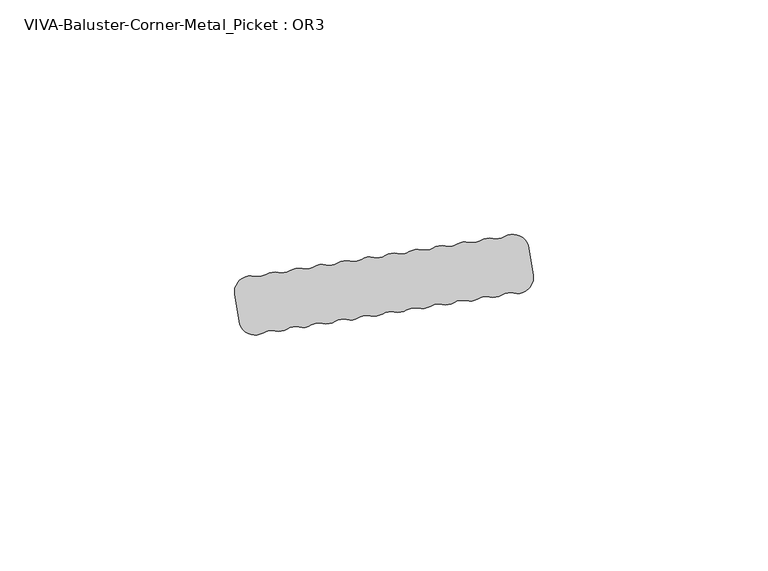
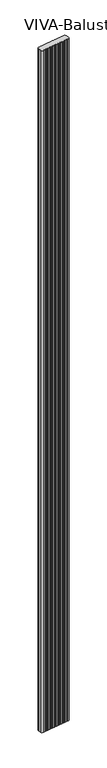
"""IFC4 building model written with IfcOpenShell, lengths in millimetres: railing geometry, VIVA-Baluster-Corner-Metal_Picket : OR3."""

import ifcopenshell
import ifcopenshell.guid

model = None  # the IFC model being written
_history = None  # IfcOwnerHistory: only IFC2X3 demands one
_inside = {}  # id of a spatial element -> (the spatial element, [elements in it])
_under = {}  # id of a project, library or spatial element -> (it, [spatial elements below it])
_declared = {}  # id of a project -> (the project, [libraries it declares])
_typed = {}  # id of a type object -> (the type object, [elements of that type])
_made_of = {}  # id of a material, layer set ... -> (it, [elements and type objects made of it])


def new_model(schema):
    """Start an empty IFC model of exactly this schema.

    Asked for "IFC4X3", IfcOpenShell would pick the latest addendum, in which some entities
    have other attributes; the version numbers below select the first issue.
    IFC2X3 requires an IfcOwnerHistory on every rooted entity: one is made here for all.
    """
    global model, _history
    if schema == "IFC4X3":
        model = ifcopenshell.file(schema_version=(4, 3, 0, 0))
    else:
        model = ifcopenshell.file(schema=schema)
    _inside.clear()
    _under.clear()
    _declared.clear()
    _typed.clear()
    _made_of.clear()
    _history = None
    if model.schema == "IFC2X3":
        org = make("IfcOrganization", Name="unknown")
        user = make(
            "IfcPersonAndOrganization",
            ThePerson=make("IfcPerson", FamilyName="unknown"),
            TheOrganization=org,
        )
        app = make(
            "IfcApplication",
            ApplicationDeveloper=org,
            Version="unknown",
            ApplicationFullName="unknown",
            ApplicationIdentifier="unknown",
        )
        _history = make(
            "IfcOwnerHistory",
            OwningUser=user,
            OwningApplication=app,
            ChangeAction="ADDED",
            CreationDate=0,
        )
    return model


def make(cls, **values):
    """One entity of the class cls with the attributes given. An attribute that is None is left unset."""
    return model.create_entity(
        cls, **{name: value for name, value in values.items() if value is not None}
    )


def rooted(cls, **values):
    """An entity with a GlobalId (a new one), such as an element, a storey or a relation."""
    return make(cls, GlobalId=ifcopenshell.guid.new(), OwnerHistory=_history, **values)


def si_unit(unit_type, name, prefix=None):
    """IfcSIUnit, for example si_unit("LENGTHUNIT", "METRE", prefix="MILLI")."""
    return make("IfcSIUnit", UnitType=unit_type, Prefix=prefix, Name=name)


def assignment(units):
    """IfcUnitAssignment: the units of a project."""
    return None if units is None else make("IfcUnitAssignment", Units=units)


def point(xyz):
    """IfcCartesianPoint."""
    return None if xyz is None else make("IfcCartesianPoint", Coordinates=xyz)


def direction(xyz):
    """IfcDirection."""
    return None if xyz is None else make("IfcDirection", DirectionRatios=xyz)


def frame(location, z_axis=None, x_axis=None):
    """IfcAxis2Placement3D, a coordinate frame: its origin and axes. An axis left out is left unset."""
    return make(
        "IfcAxis2Placement3D",
        Location=point(location),
        Axis=direction(z_axis),
        RefDirection=direction(x_axis),
    )


def origin():
    """The frame at (0, 0, 0) with its axes left unset."""
    return frame((0.0, 0.0, 0.0))


def place(relative_to, where):
    """IfcLocalPlacement: puts the frame where relative to a parent placement (None: the world)."""
    return make(
        "IfcLocalPlacement", PlacementRelTo=relative_to, RelativePlacement=where
    )


def context(
    kind, dimensions, precision=None, world=None, true_north=None, identifier=None
):
    """IfcGeometricRepresentationContext, for example the 3D "Model" context."""
    return make(
        "IfcGeometricRepresentationContext",
        ContextIdentifier=identifier,
        ContextType=kind,
        CoordinateSpaceDimension=dimensions,
        Precision=precision,
        WorldCoordinateSystem=world,
        TrueNorth=true_north,
    )


def project(units=None, contexts=None):
    """IfcProject with its units and contexts."""
    return rooted(
        "IfcProject",
        Name="project",
        RepresentationContexts=contexts,
        UnitsInContext=assignment(units),
    )


def spatial(cls, under=None, at=None, **own):
    """A site, building, storey or space (cls), placed at a placement, below another one or the project."""
    s = rooted(cls, ObjectPlacement=at, **own)
    if under is not None:
        _under.setdefault(under.id(), (under, []))[1].append(s)
    return s


def polyline(points):
    """IfcPolyline through the points."""
    return make("IfcPolyline", Points=[point(p) for p in points])


def circle_curve(where, radius):
    """IfcCircle in the frame where."""
    return make("IfcCircle", Position=where, Radius=radius)


def shape(context_of_items, identifier, shape_type, items):
    """IfcShapeRepresentation: the items that make up one representation, for example the "Body"."""
    return make(
        "IfcShapeRepresentation",
        ContextOfItems=context_of_items,
        RepresentationIdentifier=identifier,
        RepresentationType=shape_type,
        Items=items,
    )


def source(mapping_origin, context_of_items, identifier, shape_type, items):
    """IfcRepresentationMap: a shape defined once, which mapped items show again and again."""
    return make(
        "IfcRepresentationMap",
        MappingOrigin=mapping_origin,
        MappedRepresentation=shape(context_of_items, identifier, shape_type, items),
    )


def transform(
    local_origin,
    x_axis=None,
    y_axis=None,
    z_axis=None,
    scale=None,
    scale2=None,
    scale3=None,
    uniform=True,
):
    """IfcCartesianTransformationOperator3D, or its non-uniform kind. x_axis, y_axis, z_axis: its Axis1, 2, 3."""
    if uniform:
        return make(
            "IfcCartesianTransformationOperator3D",
            Axis1=direction(x_axis),
            Axis2=direction(y_axis),
            LocalOrigin=point(local_origin),
            Scale=scale,
            Axis3=direction(z_axis),
        )
    return make(
        "IfcCartesianTransformationOperator3DnonUniform",
        Axis1=direction(x_axis),
        Axis2=direction(y_axis),
        LocalOrigin=point(local_origin),
        Scale=scale,
        Axis3=direction(z_axis),
        Scale2=scale2,
        Scale3=scale3,
    )


def mapped(mapping_source, mapping_target):
    """IfcMappedItem: shows the shape of a source again, moved by a transform."""
    return make(
        "IfcMappedItem", MappingSource=mapping_source, MappingTarget=mapping_target
    )


def made_of(thing, what):
    """Note that an element or type object is made of a material, layer set ...; save() writes the relation."""
    if what is not None:
        _made_of.setdefault(what.id(), (what, []))[1].append(thing)
    return thing


def element(
    cls,
    number,
    at=None,
    inside=None,
    cuts=None,
    type_object=None,
    material=None,
    context=None,
    identifier="Body",
    shape_type=None,
    held_by="IfcProductDefinitionShape",
    body=None,
    shapes=None,
    **own,
):
    """One element of the class cls, such as IfcWall. Its Tag is "e" and its number.

    at: its placement. inside: the storey or other place that contains it. cuts: it is an
    opening in that element (IfcRelVoidsElement). A single representation is given by context,
    identifier, shape_type and body (its items); several are given by shapes. held_by: the class
    of the entity that holds the representations. save() writes the other relations.
    """
    e = rooted(cls, Tag="e%d" % number, ObjectPlacement=at, **own)
    if body is not None:
        shapes = [shape(context, identifier, shape_type, body)]
    if shapes is not None:
        e.Representation = make(held_by, Representations=shapes)
    if inside is not None:
        _inside.setdefault(inside.id(), (inside, []))[1].append(e)
    if cuts is not None:
        rooted(
            "IfcRelVoidsElement", RelatingBuildingElement=cuts, RelatedOpeningElement=e
        )
    if type_object is not None:
        _typed.setdefault(type_object.id(), (type_object, []))[1].append(e)
    return made_of(e, material)


def aggregate(whole, parts):
    """IfcRelAggregates: a whole, such as a stair, and the parts it consists of."""
    return rooted("IfcRelAggregates", RelatingObject=whole, RelatedObjects=parts)


def save(model, path):
    """Write the relations noted so far, then the file.

    IfcRelAggregates (storeys below a building ...), IfcRelContainedInSpatialStructure (elements
    in a storey), IfcRelDefinesByType, IfcRelAssociatesMaterial and IfcRelDeclares: one each for
    every whole, place, type object, material and project.
    """
    for whole, parts in _under.values():
        aggregate(whole, parts)
    for where, things in _inside.values():
        rooted(
            "IfcRelContainedInSpatialStructure",
            RelatedElements=things,
            RelatingStructure=where,
        )
    for kind, things in _typed.values():
        rooted("IfcRelDefinesByType", RelatedObjects=things, RelatingType=kind)
    for what, things in _made_of.values():
        rooted("IfcRelAssociatesMaterial", RelatedObjects=things, RelatingMaterial=what)
    for by, libraries in _declared.values():
        rooted("IfcRelDeclares", RelatingContext=by, RelatedDefinitions=libraries)
    model.write(path)


def plane_surface(at):
    """IfcPlane: the flat surface through the origin of the frame at, square to its z axis."""
    return make("IfcPlane", Position=at)


def cylinder_surface(at, radius):
    """IfcCylindricalSurface: all points at the distance radius from the z axis of the frame at."""
    return make("IfcCylindricalSurface", Position=at, Radius=radius)


def revolved_surface(curve, axis_point, axis_direction):
    """IfcSurfaceOfRevolution: the curve turned about the line through axis_point along axis_direction."""
    return make(
        "IfcSurfaceOfRevolution",
        SweptCurve=make("IfcArbitraryOpenProfileDef", ProfileType="CURVE", Curve=curve),
        AxisPosition=make("IfcAxis1Placement", Location=point(axis_point), Axis=direction(axis_direction)),
    )


def advanced_brep(points, edges, surfaces, faces):
    """IfcAdvancedBrep: a solid bounded by faces that lie on surfaces and meet in shared edges.

    An edge is (start, end): straight between two places in points (the first is 0);
    or (start, end, curve); or (start, end, curve, False) where it runs against its curve.
    A face is (place in surfaces, loops), or (place, loops, False) where it looks against
    its surface's normal. A loop lists edges by number (the first is 1), with a minus sign
    where the edge is run from its end to its start. The first loop is the outer one.
    """
    corners = [point(p) for p in points]
    vertices = [make("IfcVertexPoint", VertexGeometry=c) for c in corners]
    made = []
    for start, end, *more in edges:
        made.append(
            make(
                "IfcEdgeCurve",
                EdgeStart=vertices[start],
                EdgeEnd=vertices[end],
                EdgeGeometry=more[0] if more else make("IfcPolyline", Points=[corners[start], corners[end]]),
                SameSense=more[1] if len(more) > 1 else True,
            )
        )
    hull = []
    for where, loops, *sense in faces:
        bounds = []
        for j, loop in enumerate(loops):
            ring = [make("IfcOrientedEdge", EdgeElement=made[abs(k) - 1], Orientation=k > 0) for k in loop]
            bounds.append(
                make(
                    "IfcFaceOuterBound" if j == 0 else "IfcFaceBound",
                    Bound=make("IfcEdgeLoop", EdgeList=ring),
                    Orientation=True,
                )
            )
        hull.append(make("IfcAdvancedFace", Bounds=bounds, FaceSurface=surfaces[where], SameSense=sense[0] if sense else True))
    return make("IfcAdvancedBrep", Outer=make("IfcClosedShell", CfsFaces=hull))


def viva_baluster_corner_metal_picket_or3_b6fd80f2(model_context):
    return source(origin(), model_context, "Body", "AdvancedBrep", [
        advanced_brep(
        [(50.6303843, 191.5950661, 1219.2), (48.088201, 191.1924238, 1219.2), (45.5460177, 190.7897815, 1219.2), (43.0038343, 190.3871392, 1219.2), (40.461651, 189.9844969, 1219.2), (37.9194677, 189.5818547, 1219.2), (35.3772844, 189.1792124, 1219.2), (32.835101, 188.7765701, 1219.2), (30.2929177, 188.3739278, 1219.2), (27.7507344, 187.9712855, 1219.2), (25.2085511, 187.5686432, 1219.2), (22.6663677, 187.166001, 1219.2), (20.1241844, 186.7633587, 1219.2), (17.5820011, 186.3607164, 1219.2), (15.0398178, 185.9580741, 1219.2), (12.4976344, 185.5554318, 1219.2), (9.9554511, 185.1527895, 1219.2), (7.4132678, 184.7501473, 1219.2), (4.8710845, 184.347505, 1219.2), (2.3289011, 183.9448627, 1219.2), (-0.2132822, 183.5422204, 1219.2), (-2.7554655, 183.1395781, 1219.2), (-6.9230249, 179.2523617, 1219.2), (-6.0117655, 173.4988962, 1219.2), (-0.846965, 171.0897804, 1219.2), (1.6952183, 171.4924227, 1219.2), (4.2374016, 171.8950649, 1219.2), (6.7795849, 172.2977072, 1219.2), (9.3217683, 172.7003495, 1219.2), (11.8639516, 173.1029918, 1219.2), (14.4061349, 173.5056341, 1219.2), (16.9483182, 173.9082764, 1219.2), (19.4905016, 174.3109186, 1219.2), (22.0326849, 174.7135609, 1219.2), (24.5748682, 175.1162032, 1219.2), (27.1170515, 175.5188455, 1219.2), (29.6592349, 175.9214878, 1219.2), (32.2014182, 176.32413, 1219.2), (34.7436015, 176.7267723, 1219.2), (37.2857848, 177.1294146, 1219.2), (39.8279682, 177.5320569, 1219.2), (42.3701515, 177.9346992, 1219.2), (44.9123348, 178.3373415, 1219.2), (47.4545181, 178.7399837, 1219.2), (49.9967015, 179.142626, 1219.2), (52.5388848, 179.5452683, 1219.2), (56.7064442, 183.4324848, 1219.2), (55.7951848, 189.1859502, 1219.2), (50.6303843, 191.5950661, -245.8945017), (55.7951848, 189.1859502, -245.8945017), (56.7064442, 183.4324848, -245.8945017), (52.5388848, 179.5452683, -245.8945017), (49.9967015, 179.142626, -245.8945017), (47.4545181, 178.7399837, -245.8945017), (44.9123348, 178.3373415, -245.8945017), (42.3701515, 177.9346992, -245.8945017), (39.8279682, 177.5320569, -245.8945017), (37.2857848, 177.1294146, -245.8945017), (34.7436015, 176.7267723, -245.8945017), (32.2014182, 176.32413, -245.8945017), (29.6592349, 175.9214878, -245.8945017), (27.1170515, 175.5188455, -245.8945017), (24.5748682, 175.1162032, -245.8945017), (22.0326849, 174.7135609, -245.8945017), (19.4905016, 174.3109186, -245.8945017), (16.9483182, 173.9082764, -245.8945017), (14.4061349, 173.5056341, -245.8945017), (11.8639516, 173.1029918, -245.8945017), (9.3217683, 172.7003495, -245.8945017), (6.7795849, 172.2977072, -245.8945017), (4.2374016, 171.8950649, -245.8945017), (1.6952183, 171.4924227, -245.8945017), (-0.846965, 171.0897804, -245.8945017), (-6.0117655, 173.4988962, -245.8945017), (-6.9230249, 179.2523617, -245.8945017), (-2.7554655, 183.1395781, -245.8945017), (-0.2132822, 183.5422204, -245.8945017), (2.3289011, 183.9448627, -245.8945017), (4.8710845, 184.347505, -245.8945017), (7.4132678, 184.7501473, -245.8945017), (9.9554511, 185.1527895, -245.8945017), (12.4976344, 185.5554318, -245.8945017), (15.0398178, 185.9580741, -245.8945017), (17.5820011, 186.3607164, -245.8945017), (20.1241844, 186.7633587, -245.8945017), (22.6663677, 187.166001, -245.8945017), (25.2085511, 187.5686432, -245.8945017), (27.7507344, 187.9712855, -245.8945017), (30.2929177, 188.3739278, -245.8945017), (32.835101, 188.7765701, -245.8945017), (35.3772844, 189.1792124, -245.8945017), (37.9194677, 189.5818547, -245.8945017), (40.461651, 189.9844969, -245.8945017), (43.0038343, 190.3871392, -245.8945017), (45.5460177, 190.7897815, -245.8945017), (48.088201, 191.1924238, -245.8945017)],
        [
            (0, 1, circle_curve(frame((48.8606721, 194.5419111, 1219.2), z_axis=(0.0, 0.0, -1.0), x_axis=(1.0, 0.0, 0.0)), 3.4374084)),
            (1, 2, circle_curve(frame((47.3157299, 187.8429365, 1219.2), z_axis=(0.0, 0.0, 1.0), x_axis=(1.0, 0.0, 0.0)), 3.4374084)),
            (2, 3, circle_curve(frame((43.7763055, 193.7366265, 1219.2), z_axis=(0.0, 0.0, -1.0), x_axis=(1.0, 0.0, 0.0)), 3.4374084)),
            (3, 4, circle_curve(frame((42.2313632, 187.0376519, 1219.2), z_axis=(0.0, 0.0, 1.0), x_axis=(1.0, 0.0, 0.0)), 3.4374084)),
            (4, 5, circle_curve(frame((38.6919388, 192.9313419, 1219.2), z_axis=(0.0, 0.0, -1.0), x_axis=(1.0, 0.0, 0.0)), 3.4374084)),
            (5, 6, circle_curve(frame((37.1469966, 186.2323674, 1219.2), z_axis=(0.0, 0.0, 1.0), x_axis=(1.0, 0.0, 0.0)), 3.4374084)),
            (6, 7, circle_curve(frame((33.6075722, 192.1260574, 1219.2), z_axis=(0.0, 0.0, -1.0), x_axis=(1.0, 0.0, 0.0)), 3.4374084)),
            (7, 8, circle_curve(frame((32.0626299, 185.4270828, 1219.2), z_axis=(0.0, 0.0, 1.0), x_axis=(1.0, 0.0, 0.0)), 3.4374084)),
            (8, 9, circle_curve(frame((28.5232055, 191.3207728, 1219.2), z_axis=(0.0, 0.0, -1.0), x_axis=(1.0, 0.0, 0.0)), 3.4374084)),
            (9, 10, circle_curve(frame((26.9782633, 184.6217982, 1219.2), z_axis=(0.0, 0.0, 1.0), x_axis=(1.0, 0.0, 0.0)), 3.4374084)),
            (10, 11, circle_curve(frame((23.4388389, 190.5154882, 1219.2), z_axis=(0.0, 0.0, -1.0), x_axis=(1.0, 0.0, 0.0)), 3.4374084)),
            (11, 12, circle_curve(frame((21.8938966, 183.8165137, 1219.2), z_axis=(0.0, 0.0, 1.0), x_axis=(1.0, 0.0, 0.0)), 3.4374084)),
            (12, 13, circle_curve(frame((18.3544722, 189.7102037, 1219.2), z_axis=(0.0, 0.0, -1.0), x_axis=(1.0, 0.0, 0.0)), 3.4374084)),
            (13, 14, circle_curve(frame((16.80953, 183.0112291, 1219.2), z_axis=(0.0, 0.0, 1.0), x_axis=(1.0, 0.0, 0.0)), 3.4374084)),
            (14, 15, circle_curve(frame((13.2701056, 188.9049191, 1219.2), z_axis=(0.0, 0.0, -1.0), x_axis=(1.0, 0.0, 0.0)), 3.4374084)),
            (15, 16, circle_curve(frame((11.7251633, 182.2059445, 1219.2), z_axis=(0.0, 0.0, 1.0), x_axis=(1.0, 0.0, 0.0)), 3.4374084)),
            (16, 17, circle_curve(frame((8.1857389, 188.0996345, 1219.2), z_axis=(0.0, 0.0, -1.0), x_axis=(1.0, 0.0, 0.0)), 3.4374084)),
            (17, 18, circle_curve(frame((6.6407967, 181.40066, 1219.2), z_axis=(0.0, 0.0, 1.0), x_axis=(1.0, 0.0, 0.0)), 3.4374084)),
            (18, 19, circle_curve(frame((3.1013723, 187.29435, 1219.2), z_axis=(0.0, 0.0, -1.0), x_axis=(1.0, 0.0, 0.0)), 3.4374084)),
            (19, 20, circle_curve(frame((1.55643, 180.5953754, 1219.2), z_axis=(0.0, 0.0, 1.0), x_axis=(1.0, 0.0, 0.0)), 3.4374084)),
            (20, 21, circle_curve(frame((-1.9829944, 186.4890654, 1219.2), z_axis=(0.0, 0.0, -1.0), x_axis=(1.0, 0.0, 0.0)), 3.4374084)),
            (21, 22, circle_curve(frame((-3.5279366, 179.7900908, 1219.2), z_axis=(0.0, 0.0, 1.0), x_axis=(1.0, 0.0, 0.0)), 3.4374084)),
            (22, 23),
            (23, 24, circle_curve(frame((-2.6166772, 174.0366254, 1219.2), z_axis=(0.0, 0.0, 1.0), x_axis=(1.0, 0.0, 0.0)), 3.4374084)),
            (24, 25, circle_curve(frame((0.9227472, 168.1429354, 1219.2), z_axis=(0.0, 0.0, -1.0), x_axis=(1.0, 0.0, 0.0)), 3.4374084)),
            (25, 26, circle_curve(frame((2.4676894, 174.8419099, 1219.2), z_axis=(0.0, 0.0, 1.0), x_axis=(1.0, 0.0, 0.0)), 3.4374084)),
            (26, 27, circle_curve(frame((6.0071138, 168.9482199, 1219.2), z_axis=(0.0, 0.0, -1.0), x_axis=(1.0, 0.0, 0.0)), 3.4374084)),
            (27, 28, circle_curve(frame((7.5520561, 175.6471945, 1219.2), z_axis=(0.0, 0.0, 1.0), x_axis=(1.0, 0.0, 0.0)), 3.4374084)),
            (28, 29, circle_curve(frame((11.0914805, 169.7535045, 1219.2), z_axis=(0.0, 0.0, -1.0), x_axis=(1.0, 0.0, 0.0)), 3.4374084)),
            (29, 30, circle_curve(frame((12.6364227, 176.4524791, 1219.2), z_axis=(0.0, 0.0, 1.0), x_axis=(1.0, 0.0, 0.0)), 3.4374084)),
            (30, 31, circle_curve(frame((16.1758471, 170.5587891, 1219.2), z_axis=(0.0, 0.0, -1.0), x_axis=(1.0, 0.0, 0.0)), 3.4374084)),
            (31, 32, circle_curve(frame((17.7207894, 177.2577636, 1219.2), z_axis=(0.0, 0.0, 1.0), x_axis=(1.0, 0.0, 0.0)), 3.4374084)),
            (32, 33, circle_curve(frame((21.2602138, 171.3640736, 1219.2), z_axis=(0.0, 0.0, -1.0), x_axis=(1.0, 0.0, 0.0)), 3.4374084)),
            (33, 34, circle_curve(frame((22.805156, 178.0630482, 1219.2), z_axis=(0.0, 0.0, 1.0), x_axis=(1.0, 0.0, 0.0)), 3.4374084)),
            (34, 35, circle_curve(frame((26.3445804, 172.1693582, 1219.2), z_axis=(0.0, 0.0, -1.0), x_axis=(1.0, 0.0, 0.0)), 3.4374084)),
            (35, 36, circle_curve(frame((27.8895227, 178.8683328, 1219.2), z_axis=(0.0, 0.0, 1.0), x_axis=(1.0, 0.0, 0.0)), 3.4374084)),
            (36, 37, circle_curve(frame((31.4289471, 172.9746428, 1219.2), z_axis=(0.0, 0.0, -1.0), x_axis=(1.0, 0.0, 0.0)), 3.4374084)),
            (37, 38, circle_curve(frame((32.9738893, 179.6736173, 1219.2), z_axis=(0.0, 0.0, 1.0), x_axis=(1.0, 0.0, 0.0)), 3.4374084)),
            (38, 39, circle_curve(frame((36.5133137, 173.7799273, 1219.2), z_axis=(0.0, 0.0, -1.0), x_axis=(1.0, 0.0, 0.0)), 3.4374084)),
            (39, 40, circle_curve(frame((38.058256, 180.4789019, 1219.2), z_axis=(0.0, 0.0, 1.0), x_axis=(1.0, 0.0, 0.0)), 3.4374084)),
            (40, 41, circle_curve(frame((41.5976804, 174.5852119, 1219.2), z_axis=(0.0, 0.0, -1.0), x_axis=(1.0, 0.0, 0.0)), 3.4374084)),
            (41, 42, circle_curve(frame((43.1426226, 181.2841865, 1219.2), z_axis=(0.0, 0.0, 1.0), x_axis=(1.0, 0.0, 0.0)), 3.4374084)),
            (42, 43, circle_curve(frame((46.682047, 175.3904965, 1219.2), z_axis=(0.0, 0.0, -1.0), x_axis=(1.0, 0.0, 0.0)), 3.4374084)),
            (43, 44, circle_curve(frame((48.2269893, 182.089471, 1219.2), z_axis=(0.0, 0.0, 1.0), x_axis=(1.0, 0.0, 0.0)), 3.4374084)),
            (44, 45, circle_curve(frame((51.7664137, 176.195781, 1219.2), z_axis=(0.0, 0.0, -1.0), x_axis=(1.0, 0.0, 0.0)), 3.4374084)),
            (45, 46, circle_curve(frame((53.3113559, 182.8947556, 1219.2), z_axis=(0.0, 0.0, 1.0), x_axis=(1.0, 0.0, 0.0)), 3.4374084)),
            (46, 47),
            (47, 0, circle_curve(frame((52.4000965, 188.6482211, 1219.2), z_axis=(0.0, 0.0, 1.0), x_axis=(1.0, 0.0, 0.0)), 3.4374084)),
            (48, 49, circle_curve(frame((52.4000965, 188.6482211, -245.8945017), z_axis=(0.0, 0.0, -1.0), x_axis=(1.0, 0.0, 0.0)), 3.4374084)),
            (49, 50),
            (50, 51, circle_curve(frame((53.3113559, 182.8947556, -245.8945017), z_axis=(0.0, 0.0, -1.0), x_axis=(1.0, 0.0, 0.0)), 3.4374084)),
            (51, 52, circle_curve(frame((51.7664137, 176.195781, -245.8945017), z_axis=(0.0, 0.0, 1.0), x_axis=(1.0, 0.0, 0.0)), 3.4374084)),
            (52, 53, circle_curve(frame((48.2269893, 182.089471, -245.8945017), z_axis=(0.0, 0.0, -1.0), x_axis=(1.0, 0.0, 0.0)), 3.4374084)),
            (53, 54, circle_curve(frame((46.682047, 175.3904965, -245.8945017), z_axis=(0.0, 0.0, 1.0), x_axis=(1.0, 0.0, 0.0)), 3.4374084)),
            (54, 55, circle_curve(frame((43.1426226, 181.2841865, -245.8945017), z_axis=(0.0, 0.0, -1.0), x_axis=(1.0, 0.0, 0.0)), 3.4374084)),
            (55, 56, circle_curve(frame((41.5976804, 174.5852119, -245.8945017), z_axis=(0.0, 0.0, 1.0), x_axis=(1.0, 0.0, 0.0)), 3.4374084)),
            (56, 57, circle_curve(frame((38.058256, 180.4789019, -245.8945017), z_axis=(0.0, 0.0, -1.0), x_axis=(1.0, 0.0, 0.0)), 3.4374084)),
            (57, 58, circle_curve(frame((36.5133137, 173.7799273, -245.8945017), z_axis=(0.0, 0.0, 1.0), x_axis=(1.0, 0.0, 0.0)), 3.4374084)),
            (58, 59, circle_curve(frame((32.9738893, 179.6736173, -245.8945017), z_axis=(0.0, 0.0, -1.0), x_axis=(1.0, 0.0, 0.0)), 3.4374084)),
            (59, 60, circle_curve(frame((31.4289471, 172.9746428, -245.8945017), z_axis=(0.0, 0.0, 1.0), x_axis=(1.0, 0.0, 0.0)), 3.4374084)),
            (60, 61, circle_curve(frame((27.8895227, 178.8683328, -245.8945017), z_axis=(0.0, 0.0, -1.0), x_axis=(1.0, 0.0, 0.0)), 3.4374084)),
            (61, 62, circle_curve(frame((26.3445804, 172.1693582, -245.8945017), z_axis=(0.0, 0.0, 1.0), x_axis=(1.0, 0.0, 0.0)), 3.4374084)),
            (62, 63, circle_curve(frame((22.805156, 178.0630482, -245.8945017), z_axis=(0.0, 0.0, -1.0), x_axis=(1.0, 0.0, 0.0)), 3.4374084)),
            (63, 64, circle_curve(frame((21.2602138, 171.3640736, -245.8945017), z_axis=(0.0, 0.0, 1.0), x_axis=(1.0, 0.0, 0.0)), 3.4374084)),
            (64, 65, circle_curve(frame((17.7207894, 177.2577636, -245.8945017), z_axis=(0.0, 0.0, -1.0), x_axis=(1.0, 0.0, 0.0)), 3.4374084)),
            (65, 66, circle_curve(frame((16.1758471, 170.5587891, -245.8945017), z_axis=(0.0, 0.0, 1.0), x_axis=(1.0, 0.0, 0.0)), 3.4374084)),
            (66, 67, circle_curve(frame((12.6364227, 176.4524791, -245.8945017), z_axis=(0.0, 0.0, -1.0), x_axis=(1.0, 0.0, 0.0)), 3.4374084)),
            (67, 68, circle_curve(frame((11.0914805, 169.7535045, -245.8945017), z_axis=(0.0, 0.0, 1.0), x_axis=(1.0, 0.0, 0.0)), 3.4374084)),
            (68, 69, circle_curve(frame((7.5520561, 175.6471945, -245.8945017), z_axis=(0.0, 0.0, -1.0), x_axis=(1.0, 0.0, 0.0)), 3.4374084)),
            (69, 70, circle_curve(frame((6.0071138, 168.9482199, -245.8945017), z_axis=(0.0, 0.0, 1.0), x_axis=(1.0, 0.0, 0.0)), 3.4374084)),
            (70, 71, circle_curve(frame((2.4676894, 174.8419099, -245.8945017), z_axis=(0.0, 0.0, -1.0), x_axis=(1.0, 0.0, 0.0)), 3.4374084)),
            (71, 72, circle_curve(frame((0.9227472, 168.1429354, -245.8945017), z_axis=(0.0, 0.0, 1.0), x_axis=(1.0, 0.0, 0.0)), 3.4374084)),
            (72, 73, circle_curve(frame((-2.6166772, 174.0366254, -245.8945017), z_axis=(0.0, 0.0, -1.0), x_axis=(1.0, 0.0, 0.0)), 3.4374084)),
            (73, 74),
            (74, 75, circle_curve(frame((-3.5279366, 179.7900908, -245.8945017), z_axis=(0.0, 0.0, -1.0), x_axis=(1.0, 0.0, 0.0)), 3.4374084)),
            (75, 76, circle_curve(frame((-1.9829944, 186.4890654, -245.8945017), z_axis=(0.0, 0.0, 1.0), x_axis=(1.0, 0.0, 0.0)), 3.4374084)),
            (76, 77, circle_curve(frame((1.55643, 180.5953754, -245.8945017), z_axis=(0.0, 0.0, -1.0), x_axis=(1.0, 0.0, 0.0)), 3.4374084)),
            (77, 78, circle_curve(frame((3.1013723, 187.29435, -245.8945017), z_axis=(0.0, 0.0, 1.0), x_axis=(1.0, 0.0, 0.0)), 3.4374084)),
            (78, 79, circle_curve(frame((6.6407967, 181.40066, -245.8945017), z_axis=(0.0, 0.0, -1.0), x_axis=(1.0, 0.0, 0.0)), 3.4374084)),
            (79, 80, circle_curve(frame((8.1857389, 188.0996345, -245.8945017), z_axis=(0.0, 0.0, 1.0), x_axis=(1.0, 0.0, 0.0)), 3.4374084)),
            (80, 81, circle_curve(frame((11.7251633, 182.2059445, -245.8945017), z_axis=(0.0, 0.0, -1.0), x_axis=(1.0, 0.0, 0.0)), 3.4374084)),
            (81, 82, circle_curve(frame((13.2701056, 188.9049191, -245.8945017), z_axis=(0.0, 0.0, 1.0), x_axis=(1.0, 0.0, 0.0)), 3.4374084)),
            (82, 83, circle_curve(frame((16.80953, 183.0112291, -245.8945017), z_axis=(0.0, 0.0, -1.0), x_axis=(1.0, 0.0, 0.0)), 3.4374084)),
            (83, 84, circle_curve(frame((18.3544722, 189.7102037, -245.8945017), z_axis=(0.0, 0.0, 1.0), x_axis=(1.0, 0.0, 0.0)), 3.4374084)),
            (84, 85, circle_curve(frame((21.8938966, 183.8165137, -245.8945017), z_axis=(0.0, 0.0, -1.0), x_axis=(1.0, 0.0, 0.0)), 3.4374084)),
            (85, 86, circle_curve(frame((23.4388389, 190.5154882, -245.8945017), z_axis=(0.0, 0.0, 1.0), x_axis=(1.0, 0.0, 0.0)), 3.4374084)),
            (86, 87, circle_curve(frame((26.9782633, 184.6217982, -245.8945017), z_axis=(0.0, 0.0, -1.0), x_axis=(1.0, 0.0, 0.0)), 3.4374084)),
            (87, 88, circle_curve(frame((28.5232055, 191.3207728, -245.8945017), z_axis=(0.0, 0.0, 1.0), x_axis=(1.0, 0.0, 0.0)), 3.4374084)),
            (88, 89, circle_curve(frame((32.0626299, 185.4270828, -245.8945017), z_axis=(0.0, 0.0, -1.0), x_axis=(1.0, 0.0, 0.0)), 3.4374084)),
            (89, 90, circle_curve(frame((33.6075722, 192.1260574, -245.8945017), z_axis=(0.0, 0.0, 1.0), x_axis=(1.0, 0.0, 0.0)), 3.4374084)),
            (90, 91, circle_curve(frame((37.1469966, 186.2323674, -245.8945017), z_axis=(0.0, 0.0, -1.0), x_axis=(1.0, 0.0, 0.0)), 3.4374084)),
            (91, 92, circle_curve(frame((38.6919388, 192.9313419, -245.8945017), z_axis=(0.0, 0.0, 1.0), x_axis=(1.0, 0.0, 0.0)), 3.4374084)),
            (92, 93, circle_curve(frame((42.2313632, 187.0376519, -245.8945017), z_axis=(0.0, 0.0, -1.0), x_axis=(1.0, 0.0, 0.0)), 3.4374084)),
            (93, 94, circle_curve(frame((43.7763055, 193.7366265, -245.8945017), z_axis=(0.0, 0.0, 1.0), x_axis=(1.0, 0.0, 0.0)), 3.4374084)),
            (94, 95, circle_curve(frame((47.3157299, 187.8429365, -245.8945017), z_axis=(0.0, 0.0, -1.0), x_axis=(1.0, 0.0, 0.0)), 3.4374084)),
            (95, 48, circle_curve(frame((48.8606721, 194.5419111, -245.8945017), z_axis=(0.0, 0.0, 1.0), x_axis=(1.0, 0.0, 0.0)), 3.4374084)),
            (0, 48),
            (95, 1),
            (94, 2),
            (93, 3),
            (92, 4),
            (91, 5),
            (90, 6),
            (89, 7),
            (88, 8),
            (87, 9),
            (86, 10),
            (85, 11),
            (84, 12),
            (83, 13),
            (82, 14),
            (81, 15),
            (80, 16),
            (79, 17),
            (78, 18),
            (77, 19),
            (76, 20),
            (75, 21),
            (74, 22),
            (73, 23),
            (72, 24),
            (71, 25),
            (70, 26),
            (69, 27),
            (68, 28),
            (67, 29),
            (66, 30),
            (65, 31),
            (64, 32),
            (63, 33),
            (62, 34),
            (61, 35),
            (60, 36),
            (59, 37),
            (58, 38),
            (57, 39),
            (56, 40),
            (55, 41),
            (54, 42),
            (53, 43),
            (52, 44),
            (51, 45),
            (50, 46),
            (49, 47),
        ],
        [
            plane_surface(frame((52.2980806, 194.5419111, 1219.2), z_axis=(0.0, 0.0, 1.0), x_axis=(0.0, -1.0, 0.0))),
            plane_surface(frame((52.2980806, 194.5419111, -245.8945017), z_axis=(0.0, 0.0, -1.0), x_axis=(0.0, 1.0, 0.0))),
            revolved_surface(polyline([(52.298080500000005, 194.5419111, -245.8945017), (52.298080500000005, 194.5419111, 1219.2)]), (48.8606721, 194.5419111, -245.8945017), (0.0, 0.0, -1.0)),
            cylinder_surface(frame((47.3157299, 187.8429365, -245.8945017), z_axis=(0.0, 0.0, 1.0), x_axis=(1.0, 0.0, 0.0)), 3.4374084),
            revolved_surface(polyline([(47.2137139, 193.7366265, -245.8945017), (47.2137139, 193.7366265, 1219.2)]), (43.7763055, 193.7366265, -245.8945017), (0.0, 0.0, -1.0)),
            cylinder_surface(frame((42.2313632, 187.0376519, -245.8945017), z_axis=(0.0, 0.0, 1.0), x_axis=(1.0, 0.0, 0.0)), 3.4374084),
            revolved_surface(polyline([(42.129347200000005, 192.9313419, -245.8945017), (42.129347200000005, 192.9313419, 1219.2)]), (38.6919388, 192.9313419, -245.8945017), (0.0, 0.0, -1.0)),
            cylinder_surface(frame((37.1469966, 186.2323674, -245.8945017), z_axis=(0.0, 0.0, 1.0), x_axis=(1.0, 0.0, 0.0)), 3.4374084),
            revolved_surface(polyline([(37.0449806, 192.1260574, -245.8945017), (37.0449806, 192.1260574, 1219.2)]), (33.6075722, 192.1260574, -245.8945017), (0.0, 0.0, -1.0)),
            cylinder_surface(frame((32.0626299, 185.4270828, -245.8945017), z_axis=(0.0, 0.0, 1.0), x_axis=(1.0, 0.0, 0.0)), 3.4374084),
            revolved_surface(polyline([(31.9606139, 191.3207728, -245.8945017), (31.9606139, 191.3207728, 1219.2)]), (28.5232055, 191.3207728, -245.8945017), (0.0, 0.0, -1.0)),
            cylinder_surface(frame((26.9782633, 184.6217982, -245.8945017), z_axis=(0.0, 0.0, 1.0), x_axis=(1.0, 0.0, 0.0)), 3.4374084),
            revolved_surface(polyline([(26.8762473, 190.5154882, -245.8945017), (26.8762473, 190.5154882, 1219.2)]), (23.4388389, 190.5154882, -245.8945017), (0.0, 0.0, -1.0)),
            cylinder_surface(frame((21.8938966, 183.8165137, -245.8945017), z_axis=(0.0, 0.0, 1.0), x_axis=(1.0, 0.0, 0.0)), 3.4374084),
            revolved_surface(polyline([(21.7918806, 189.7102037, -245.8945017), (21.7918806, 189.7102037, 1219.2)]), (18.3544722, 189.7102037, -245.8945017), (0.0, 0.0, -1.0)),
            cylinder_surface(frame((16.80953, 183.0112291, -245.8945017), z_axis=(0.0, 0.0, 1.0), x_axis=(1.0, 0.0, 0.0)), 3.4374084),
            revolved_surface(polyline([(16.707514, 188.9049191, -245.8945017), (16.707514, 188.9049191, 1219.2)]), (13.2701056, 188.9049191, -245.8945017), (0.0, 0.0, -1.0)),
            cylinder_surface(frame((11.7251633, 182.2059445, -245.8945017), z_axis=(0.0, 0.0, 1.0), x_axis=(1.0, 0.0, 0.0)), 3.4374084),
            revolved_surface(polyline([(11.6231473, 188.0996345, -245.8945017), (11.6231473, 188.0996345, 1219.2)]), (8.1857389, 188.0996345, -245.8945017), (0.0, 0.0, -1.0)),
            cylinder_surface(frame((6.6407967, 181.40066, -245.8945017), z_axis=(0.0, 0.0, 1.0), x_axis=(1.0, 0.0, 0.0)), 3.4374084),
            revolved_surface(polyline([(6.5387807, 187.29435, -245.8945017), (6.5387807, 187.29435, 1219.2)]), (3.1013723, 187.29435, -245.8945017), (0.0, 0.0, -1.0)),
            cylinder_surface(frame((1.55643, 180.5953754, -245.8945017), z_axis=(0.0, 0.0, 1.0), x_axis=(1.0, 0.0, 0.0)), 3.4374084),
            revolved_surface(polyline([(1.4544139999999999, 186.4890654, -245.8945017), (1.4544139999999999, 186.4890654, 1219.2)]), (-1.9829944, 186.4890654, -245.8945017), (0.0, 0.0, -1.0)),
            cylinder_surface(frame((-3.5279366, 179.7900908, -245.8945017), z_axis=(0.0, 0.0, 1.0), x_axis=(1.0, 0.0, 0.0)), 3.4374084),
            plane_surface(frame((-6.9230249, 179.2523617, 1219.2), z_axis=(-0.9876883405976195, -0.1564344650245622, 0.0), x_axis=(0.0, 0.0, -1.0))),
            cylinder_surface(frame((-2.6166772, 174.0366254, -245.8945017), z_axis=(0.0, 0.0, 1.0), x_axis=(1.0, 0.0, 0.0)), 3.4374084),
            revolved_surface(polyline([(4.3601556, 168.1429354, -245.8945017), (4.3601556, 168.1429354, 1219.2)]), (0.9227472, 168.1429354, -245.8945017), (0.0, 0.0, -1.0)),
            cylinder_surface(frame((2.4676894, 174.8419099, -245.8945017), z_axis=(0.0, 0.0, 1.0), x_axis=(1.0, 0.0, 0.0)), 3.4374084),
            revolved_surface(polyline([(9.4445222, 168.9482199, -245.8945017), (9.4445222, 168.9482199, 1219.2)]), (6.0071138, 168.9482199, -245.8945017), (0.0, 0.0, -1.0)),
            cylinder_surface(frame((7.5520561, 175.6471945, -245.8945017), z_axis=(0.0, 0.0, 1.0), x_axis=(1.0, 0.0, 0.0)), 3.4374084),
            revolved_surface(polyline([(14.528888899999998, 169.7535045, -245.8945017), (14.528888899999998, 169.7535045, 1219.2)]), (11.0914805, 169.7535045, -245.8945017), (0.0, 0.0, -1.0)),
            cylinder_surface(frame((12.6364227, 176.4524791, -245.8945017), z_axis=(0.0, 0.0, 1.0), x_axis=(1.0, 0.0, 0.0)), 3.4374084),
            revolved_surface(polyline([(19.613255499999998, 170.5587891, -245.8945017), (19.613255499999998, 170.5587891, 1219.2)]), (16.1758471, 170.5587891, -245.8945017), (0.0, 0.0, -1.0)),
            cylinder_surface(frame((17.7207894, 177.2577636, -245.8945017), z_axis=(0.0, 0.0, 1.0), x_axis=(1.0, 0.0, 0.0)), 3.4374084),
            revolved_surface(polyline([(24.697622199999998, 171.3640736, -245.8945017), (24.697622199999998, 171.3640736, 1219.2)]), (21.2602138, 171.3640736, -245.8945017), (0.0, 0.0, -1.0)),
            cylinder_surface(frame((22.805156, 178.0630482, -245.8945017), z_axis=(0.0, 0.0, 1.0), x_axis=(1.0, 0.0, 0.0)), 3.4374084),
            revolved_surface(polyline([(29.7819888, 172.1693582, -245.8945017), (29.7819888, 172.1693582, 1219.2)]), (26.3445804, 172.1693582, -245.8945017), (0.0, 0.0, -1.0)),
            cylinder_surface(frame((27.8895227, 178.8683328, -245.8945017), z_axis=(0.0, 0.0, 1.0), x_axis=(1.0, 0.0, 0.0)), 3.4374084),
            revolved_surface(polyline([(34.8663555, 172.9746428, -245.8945017), (34.8663555, 172.9746428, 1219.2)]), (31.4289471, 172.9746428, -245.8945017), (0.0, 0.0, -1.0)),
            cylinder_surface(frame((32.9738893, 179.6736173, -245.8945017), z_axis=(0.0, 0.0, 1.0), x_axis=(1.0, 0.0, 0.0)), 3.4374084),
            revolved_surface(polyline([(39.9507221, 173.7799273, -245.8945017), (39.9507221, 173.7799273, 1219.2)]), (36.5133137, 173.7799273, -245.8945017), (0.0, 0.0, -1.0)),
            cylinder_surface(frame((38.058256, 180.4789019, -245.8945017), z_axis=(0.0, 0.0, 1.0), x_axis=(1.0, 0.0, 0.0)), 3.4374084),
            revolved_surface(polyline([(45.035088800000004, 174.5852119, -245.8945017), (45.035088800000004, 174.5852119, 1219.2)]), (41.5976804, 174.5852119, -245.8945017), (0.0, 0.0, -1.0)),
            cylinder_surface(frame((43.1426226, 181.2841865, -245.8945017), z_axis=(0.0, 0.0, 1.0), x_axis=(1.0, 0.0, 0.0)), 3.4374084),
            revolved_surface(polyline([(50.1194554, 175.3904965, -245.8945017), (50.1194554, 175.3904965, 1219.2)]), (46.682047, 175.3904965, -245.8945017), (0.0, 0.0, -1.0)),
            cylinder_surface(frame((48.2269893, 182.089471, -245.8945017), z_axis=(0.0, 0.0, 1.0), x_axis=(1.0, 0.0, 0.0)), 3.4374084),
            revolved_surface(polyline([(55.203822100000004, 176.195781, -245.8945017), (55.203822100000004, 176.195781, 1219.2)]), (51.7664137, 176.195781, -245.8945017), (0.0, 0.0, -1.0)),
            cylinder_surface(frame((53.3113559, 182.8947556, -245.8945017), z_axis=(0.0, 0.0, 1.0), x_axis=(1.0, 0.0, 0.0)), 3.4374084),
            plane_surface(frame((56.7064442, 183.4324848, 1219.2), z_axis=(0.9876883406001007, 0.15643446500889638, 0.0), x_axis=(0.0, 0.0, -1.0))),
            cylinder_surface(frame((52.4000965, 188.6482211, -245.8945017), z_axis=(0.0, 0.0, 1.0), x_axis=(1.0, 0.0, 0.0)), 3.4374084),
        ],
        [
            (0, [[1, 2, 3, 4, 5, 6, 7, 8, 9, 10, 11, 12, 13, 14, 15, 16, 17, 18, 19, 20, 21, 22, 23, 24, 25, 26, 27, 28, 29, 30, 31, 32, 33, 34, 35, 36, 37, 38, 39, 40, 41, 42, 43, 44, 45, 46, 47, 48]]),
            (1, [[49, 50, 51, 52, 53, 54, 55, 56, 57, 58, 59, 60, 61, 62, 63, 64, 65, 66, 67, 68, 69, 70, 71, 72, 73, 74, 75, 76, 77, 78, 79, 80, 81, 82, 83, 84, 85, 86, 87, 88, 89, 90, 91, 92, 93, 94, 95, 96]]),
            (2, [[-1, 97, -96, 98]]),
            (3, [[-2, -98, -95, 99]]),
            (4, [[-3, -99, -94, 100]]),
            (5, [[-4, -100, -93, 101]]),
            (6, [[-5, -101, -92, 102]]),
            (7, [[-6, -102, -91, 103]]),
            (8, [[-7, -103, -90, 104]]),
            (9, [[-8, -104, -89, 105]]),
            (10, [[-9, -105, -88, 106]]),
            (11, [[-10, -106, -87, 107]]),
            (12, [[-11, -107, -86, 108]]),
            (13, [[-12, -108, -85, 109]]),
            (14, [[-13, -109, -84, 110]]),
            (15, [[-14, -110, -83, 111]]),
            (16, [[-15, -111, -82, 112]]),
            (17, [[-16, -112, -81, 113]]),
            (18, [[-17, -113, -80, 114]]),
            (19, [[-18, -114, -79, 115]]),
            (20, [[-19, -115, -78, 116]]),
            (21, [[-20, -116, -77, 117]]),
            (22, [[-21, -117, -76, 118]]),
            (23, [[-22, -118, -75, 119]]),
            (24, [[-23, -119, -74, 120]]),
            (25, [[-24, -120, -73, 121]]),
            (26, [[-25, -121, -72, 122]]),
            (27, [[-26, -122, -71, 123]]),
            (28, [[-27, -123, -70, 124]]),
            (29, [[-28, -124, -69, 125]]),
            (30, [[-29, -125, -68, 126]]),
            (31, [[-30, -126, -67, 127]]),
            (32, [[-31, -127, -66, 128]]),
            (33, [[-32, -128, -65, 129]]),
            (34, [[-33, -129, -64, 130]]),
            (35, [[-34, -130, -63, 131]]),
            (36, [[-35, -131, -62, 132]]),
            (37, [[-36, -132, -61, 133]]),
            (38, [[-37, -133, -60, 134]]),
            (39, [[-38, -134, -59, 135]]),
            (40, [[-39, -135, -58, 136]]),
            (41, [[-40, -136, -57, 137]]),
            (42, [[-41, -137, -56, 138]]),
            (43, [[-42, -138, -55, 139]]),
            (44, [[-43, -139, -54, 140]]),
            (45, [[-44, -140, -53, 141]]),
            (46, [[-45, -141, -52, 142]]),
            (47, [[-46, -142, -51, 143]]),
            (48, [[-47, -143, -50, 144]]),
            (49, [[-48, -144, -49, -97]]),
        ],
    ),
    ])


if __name__ == "__main__":
    model = new_model("IFC4")
    model_context = context("Model", 3, world=origin())
    ifc_project = project(units=[si_unit("LENGTHUNIT", "METRE", prefix="MILLI")], contexts=[model_context])
    site = spatial("IfcSite", under=ifc_project)
    building = spatial("IfcBuilding", under=site)
    placement = place(None, origin())
    viva_baluster_corner_metal_picket_or3_shape = viva_baluster_corner_metal_picket_or3_b6fd80f2(model_context)
    element("IfcRailing", 1, ObjectType="VIVA-Baluster-Corner-Metal_Picket : OR3", at=placement, inside=building, context=model_context, shape_type="MappedRepresentation", body=[
        mapped(viva_baluster_corner_metal_picket_or3_shape, transform((0.0, 0.0, 0.0), x_axis=(1.0, 0.0, 0.0), y_axis=(0.0, 1.0, 0.0), z_axis=(0.0, 0.0, 1.0))),
    ])
    save(model, "model.ifc")
